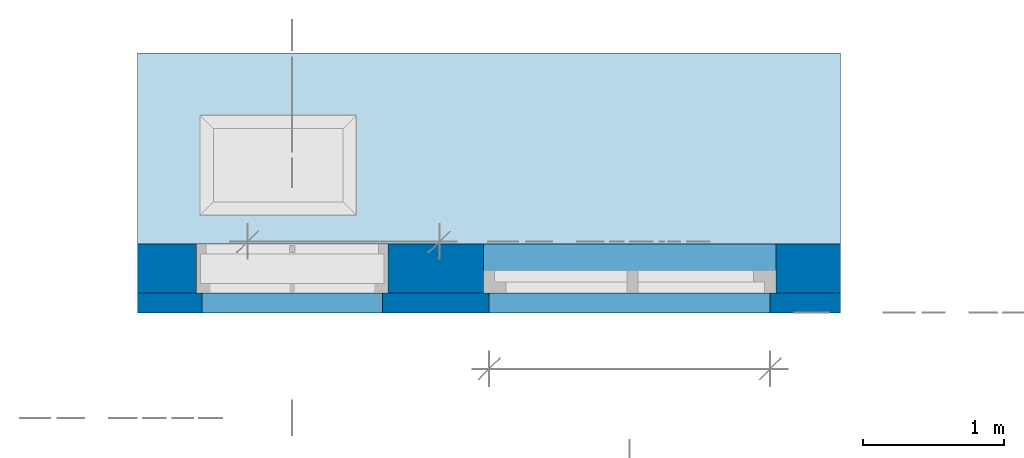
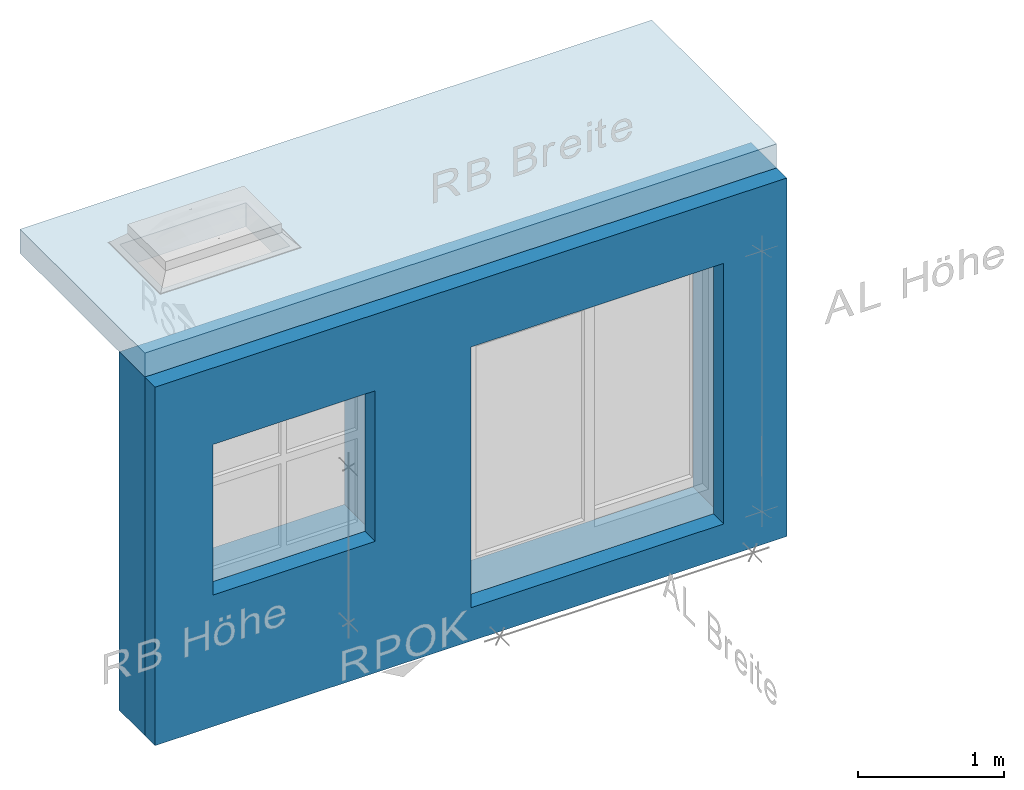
# One storey, part 1 of 5: 2 walls, 1 slab, 5 openings, 1 element without a shape of its own.
"""IFC4 building model written with IfcOpenShell, lengths in metres."""

from ifc_helpers import new_model, entity, si_unit, converted_unit, derived_unit, frame, frame_2d, origin, origin_with_axes, place, context, subcontext, project, spatial, polyline, rectangle, outline, extrude, material, element, aggregate, save


model = new_model("IFC4")

# Units and contexts
model_context = context("Model", 3, precision=1e-05, world=origin())
body_context = subcontext(model_context, "Body", "Model", "MODEL_VIEW")
ifc_project = project(units=[si_unit("LENGTHUNIT", "METRE"), si_unit("AREAUNIT", "SQUARE_METRE"), si_unit("VOLUMEUNIT", "CUBIC_METRE"), si_unit("MASSUNIT", "GRAM", prefix="KILO"), converted_unit("PLANEANGLEUNIT", "DEGREE", entity("IfcPlaneAngleMeasure", 0.0174532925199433), si_unit("PLANEANGLEUNIT", "RADIAN"), dimensions=[0, 0, 0, 0, 0, 0, 0]), derived_unit("THERMALTRANSMITTANCEUNIT", [(si_unit("POWERUNIT", "WATT"), 1), (si_unit("THERMODYNAMICTEMPERATUREUNIT", "KELVIN"), -1), (si_unit("LENGTHUNIT", "METRE"), -2)]), derived_unit("VOLUMETRICFLOWRATEUNIT", [(si_unit("LENGTHUNIT", "METRE"), 3), (converted_unit("TIMEUNIT", "hour", entity("IfcTimeMeasure", 3600.0), si_unit("TIMEUNIT", "SECOND"), dimensions=[0, 0, 1, 0, 0, 0, 0]), -1), (si_unit("LENGTHUNIT", "METRE"), -1)])], contexts=[model_context])

# Site, building, storey
site_placement = place(None, origin())
site = spatial("IfcSite", under=ifc_project, at=site_placement, Name="Liegenschaft", CompositionType="ELEMENT")
building_placement = place(site_placement, origin())
building = spatial("IfcBuilding", under=site, at=building_placement, Name="Gebäude", CompositionType="ELEMENT")
storey_placement = place(building_placement, origin())
storey = spatial("IfcBuildingStorey", under=building, at=storey_placement, Name="Geschoss 01", CompositionType="ELEMENT", Elevation=0.0)

# Slab, opening
ifc_material_1 = material(Name="C25/30")
slab_placement = place(storey_placement, frame((209.064213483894, 1.38187041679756, 3.0)))
slab = element("IfcSlab", 1, at=slab_placement, inside=storey, material=ifc_material_1, Name="WA_01", PredefinedType="FLOOR", context=body_context, shape_type="SweptSolid", body=[
    extrude(rectangle(XDim=5.0, YDim=1.71, at=frame_2d((2.5, 0.855), x_axis=(1.0, 0.0))), origin_with_axes(), (0.0, 0.0, 1.0), 0.2),
])
opening_1_placement = place(slab_placement, frame((0.5, 0.61, 0.0)))
element("IfcOpeningElement", 2, at=opening_1_placement, cuts=slab, Name="DDB_01", PredefinedType="OPENING", context=body_context, shape_type="SweptSolid", body=[
    extrude(rectangle(XDim=0.6, YDim=1.0, at=frame_2d((0.0, 0.0), x_axis=(0.0, -1.0))), frame((0.499999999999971, 0.3, 0.0), z_axis=(0.0, 0.0, 1.0), x_axis=(1.0, 0.0, 0.0)), (0.0, 0.0, 1.0), 0.2),
])

# Assembly, walls, openings
assembly_placement = place(storey_placement, origin())
assembly = element("IfcElementAssembly", 3, at=assembly_placement, inside=storey, Name="WA_01", PredefinedType="NOTDEFINED")
ifc_material_2 = material(Name="Dämmstoff hart")
wall_1_placement = place(storey_placement, frame((209.064213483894, 1.24187041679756, 0.0)))
wall_1 = element("IfcWall", 4, at=wall_1_placement, material=ifc_material_2, Name="WA_01", context=body_context, shape_type="SweptSolid", body=[
    extrude(rectangle(XDim=5.0, YDim=0.14, at=frame_2d((2.5, 0.07), x_axis=(1.0, 0.0))), origin_with_axes(), (0.0, 0.0, 1.0), 3.0),
])
opening_2_placement = place(wall_1_placement, frame((2.5, 0.0, 0.28), z_axis=(0.0, 1.0, 0.0), x_axis=(0.0, 0.0, 1.0)))
element("IfcOpeningElement", 5, at=opening_2_placement, cuts=wall_1, Name="Fensteröffnung", ObjectType="Opening", context=body_context, shape_type="SweptSolid", body=[
    extrude(outline(polyline([(0.0, 2.0), (2.18, 2.0), (2.18, 0.0), (0.0, 0.0), (0.0, 2.0)])), origin_with_axes(), (0.0, 0.0, 1.0), 0.14),
])
opening_3_placement = place(wall_1_placement, frame((0.4575, 0.0, 1.1), z_axis=(0.0, 1.0, 0.0), x_axis=(0.0, 0.0, 1.0)))
element("IfcOpeningElement", 6, at=opening_3_placement, cuts=wall_1, Name="Fensteröffnung", ObjectType="Opening", context=body_context, shape_type="SweptSolid", body=[
    extrude(outline(polyline([(0.0, 1.285), (1.26, 1.285), (1.26, 0.0), (0.0, 0.0), (0.0, 1.285)])), origin_with_axes(), (0.0, 0.0, 1.0), 0.14),
])
ifc_material_3 = material(Name="C20/25")
wall_2_placement = place(storey_placement, frame((209.064213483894, 1.38187041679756, 0.0)))
wall_2 = element("IfcWall", 7, at=wall_2_placement, material=ifc_material_3, Name="WA_01", context=body_context, shape_type="SweptSolid", body=[
    extrude(rectangle(XDim=5.0, YDim=0.35, at=frame_2d((2.5, 0.175), x_axis=(1.0, 0.0))), origin_with_axes(), (0.0, 0.0, 1.0), 3.0),
])
opening_4_placement = place(wall_2_placement, frame((2.46, 0.0, 0.28), z_axis=(0.0, 1.0, 0.0), x_axis=(0.0, 0.0, 1.0)))
element("IfcOpeningElement", 8, at=opening_4_placement, cuts=wall_2, Name="Fensteröffnung", ObjectType="Opening", context=body_context, shape_type="SweptSolid", body=[
    extrude(outline(polyline([(0.0, 2.08), (2.22, 2.08), (2.22, 0.0), (0.0, 0.0), (0.0, 2.08)])), origin_with_axes(), (0.0, 0.0, 1.0), 0.35),
])
opening_5_placement = place(wall_2_placement, frame((0.4175, 0.0, 1.1), z_axis=(0.0, 1.0, 0.0), x_axis=(0.0, 0.0, 1.0)))
element("IfcOpeningElement", 9, at=opening_5_placement, cuts=wall_2, Name="Fensteröffnung", ObjectType="Opening", context=body_context, shape_type="SweptSolid", body=[
    extrude(outline(polyline([(0.0, 1.365), (1.3, 1.365), (1.3, 0.0), (0.0, 0.0), (0.0, 1.365)])), origin_with_axes(), (0.0, 0.0, 1.0), 0.35),
])
aggregate(assembly, [wall_1, wall_2])

save(model, "model.ifc")
